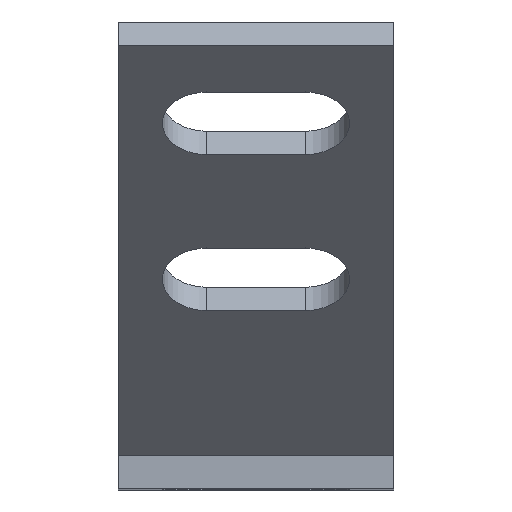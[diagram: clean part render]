
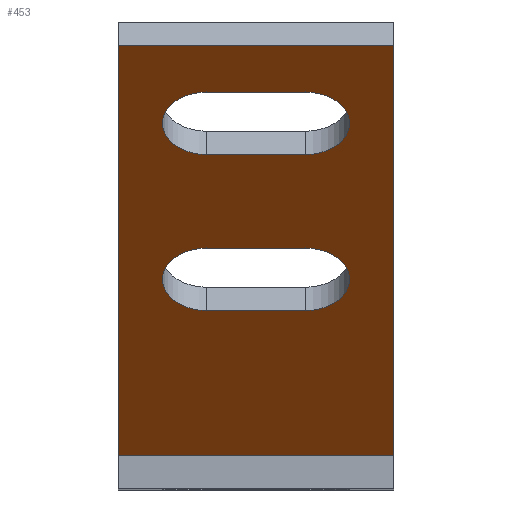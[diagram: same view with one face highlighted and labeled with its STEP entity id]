
A CAD part, top view. The second image highlights one B-rep face of the part: STEP entity #453.
In plain terms, the highlighted planar face has unit normal (0, -0.707, 0.707).
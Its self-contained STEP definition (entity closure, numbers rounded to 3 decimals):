
#6 = VERTEX_POINT ( 'NONE', #535 ) ;
#11 = CIRCLE ( 'NONE', #574, 4. ) ;
#14 = CARTESIAN_POINT ( 'NONE',  ( 4.5, 33.234, 37.477 ) ) ;
#15 = ORIENTED_EDGE ( 'NONE', *, *, #786, .F. ) ;
#27 = CARTESIAN_POINT ( 'NONE',  ( -4.5, 21.92, 26.163 ) ) ;
#54 = DIRECTION ( 'NONE',  ( 0., -0.707, -0.707 ) ) ;
#62 = DIRECTION ( 'NONE',  ( -1., 0., 0. ) ) ;
#86 = EDGE_CURVE ( 'NONE', #875, #332, #470, .T. ) ;
#93 = VERTEX_POINT ( 'NONE', #413 ) ;
#101 = VECTOR ( 'NONE', #614, 1000. ) ;
#103 = LINE ( 'NONE', #27, #746 ) ;
#117 = CARTESIAN_POINT ( 'NONE',  ( 12.5, 3., 7.243 ) ) ;
#139 = DIRECTION ( 'NONE',  ( -1., 0., 0. ) ) ;
#141 = DIRECTION ( 'NONE',  ( 0., -0.707, 0.707 ) ) ;
#145 = CIRCLE ( 'NONE', #405, 4. ) ;
#147 = CARTESIAN_POINT ( 'NONE',  ( 12.5, 40.305, 44.548 ) ) ;
#165 = CARTESIAN_POINT ( 'NONE',  ( -4.5, 36.062, 40.305 ) ) ;
#169 = ORIENTED_EDGE ( 'NONE', *, *, #423, .F. ) ;
#176 = AXIS2_PLACEMENT_3D ( 'NONE', #529, #265, #739 ) ;
#178 = CARTESIAN_POINT ( 'NONE',  ( -4.5, 30.406, 34.648 ) ) ;
#185 = LINE ( 'NONE', #178, #475 ) ;
#195 = ORIENTED_EDGE ( 'NONE', *, *, #86, .F. ) ;
#198 = DIRECTION ( 'NONE',  ( 0., 0.707, 0.707 ) ) ;
#200 = EDGE_CURVE ( 'NONE', #315, #718, #548, .T. ) ;
#221 = VECTOR ( 'NONE', #818, 1000. ) ;
#240 = PLANE ( 'NONE',  #176 ) ;
#249 = ORIENTED_EDGE ( 'NONE', *, *, #311, .F. ) ;
#252 = LINE ( 'NONE', #165, #592 ) ;
#265 = DIRECTION ( 'NONE',  ( 0., 0.707, -0.707 ) ) ;
#311 = EDGE_CURVE ( 'NONE', #761, #770, #103, .T. ) ;
#315 = VERTEX_POINT ( 'NONE', #722 ) ;
#316 = ORIENTED_EDGE ( 'NONE', *, *, #465, .F. ) ;
#317 = DIRECTION ( 'NONE',  ( -1., 0., 0. ) ) ;
#323 = FACE_BOUND ( 'NONE', #896, .T. ) ;
#330 = DIRECTION ( 'NONE',  ( 0., -0.707, 0.707 ) ) ;
#332 = VERTEX_POINT ( 'NONE', #573 ) ;
#339 = EDGE_LOOP ( 'NONE', ( #656, #195, #668, #695 ) ) ;
#343 = ORIENTED_EDGE ( 'NONE', *, *, #362, .F. ) ;
#357 = ORIENTED_EDGE ( 'NONE', *, *, #200, .F. ) ;
#359 = EDGE_CURVE ( 'NONE', #93, #761, #11, .T. ) ;
#362 = EDGE_CURVE ( 'NONE', #752, #315, #185, .T. ) ;
#376 = FACE_OUTER_BOUND ( 'NONE', #339, .T. ) ;
#381 = DIRECTION ( 'NONE',  ( -1., 0., 0. ) ) ;
#393 = VECTOR ( 'NONE', #139, 1000. ) ;
#405 = AXIS2_PLACEMENT_3D ( 'NONE', #878, #330, #198 ) ;
#406 = CARTESIAN_POINT ( 'NONE',  ( -4.5, 36.062, 40.305 ) ) ;
#413 = CARTESIAN_POINT ( 'NONE',  ( 4.5, 16.263, 20.506 ) ) ;
#423 = EDGE_CURVE ( 'NONE', #512, #752, #532, .T. ) ;
#424 = CARTESIAN_POINT ( 'NONE',  ( -4.5, 16.263, 20.506 ) ) ;
#428 = CARTESIAN_POINT ( 'NONE',  ( -4.5, 30.406, 34.648 ) ) ;
#438 = VERTEX_POINT ( 'NONE', #508 ) ;
#441 = CARTESIAN_POINT ( 'NONE',  ( 4.5, 19.092, 23.335 ) ) ;
#449 = ORIENTED_EDGE ( 'NONE', *, *, #359, .F. ) ;
#453 = ADVANCED_FACE ( 'NONE', ( #782, #323, #376 ), #240, .F. ) ;
#456 = ORIENTED_EDGE ( 'NONE', *, *, #528, .F. ) ;
#465 = EDGE_CURVE ( 'NONE', #770, #701, #145, .T. ) ;
#470 = LINE ( 'NONE', #740, #854 ) ;
#475 = VECTOR ( 'NONE', #801, 1000. ) ;
#508 = CARTESIAN_POINT ( 'NONE',  ( 12.5, 40.305, 44.548 ) ) ;
#512 = VERTEX_POINT ( 'NONE', #406 ) ;
#516 = EDGE_CURVE ( 'NONE', #6, #332, #673, .T. ) ;
#521 = CARTESIAN_POINT ( 'NONE',  ( -4.5, 33.234, 37.477 ) ) ;
#528 = EDGE_CURVE ( 'NONE', #701, #93, #884, .T. ) ;
#529 = CARTESIAN_POINT ( 'NONE',  ( 12.5, 3., 7.243 ) ) ;
#532 = CIRCLE ( 'NONE', #561, 4. ) ;
#535 = CARTESIAN_POINT ( 'NONE',  ( -12.5, 40.305, 44.548 ) ) ;
#544 = EDGE_CURVE ( 'NONE', #438, #875, #735, .T. ) ;
#548 = CIRCLE ( 'NONE', #636, 4. ) ;
#560 = LINE ( 'NONE', #147, #393 ) ;
#561 = AXIS2_PLACEMENT_3D ( 'NONE', #521, #797, #725 ) ;
#573 = CARTESIAN_POINT ( 'NONE',  ( -12.5, 3., 7.243 ) ) ;
#574 = AXIS2_PLACEMENT_3D ( 'NONE', #441, #596, #791 ) ;
#578 = CARTESIAN_POINT ( 'NONE',  ( 4.5, 21.92, 26.163 ) ) ;
#587 = CARTESIAN_POINT ( 'NONE',  ( 12.5, 3., 7.243 ) ) ;
#592 = VECTOR ( 'NONE', #317, 1000. ) ;
#596 = DIRECTION ( 'NONE',  ( 0., -0.707, 0.707 ) ) ;
#614 = DIRECTION ( 'NONE',  ( 1., 0., 0. ) ) ;
#628 = CARTESIAN_POINT ( 'NONE',  ( 4.5, 36.062, 40.305 ) ) ;
#636 = AXIS2_PLACEMENT_3D ( 'NONE', #14, #141, #700 ) ;
#656 = ORIENTED_EDGE ( 'NONE', *, *, #516, .T. ) ;
#668 = ORIENTED_EDGE ( 'NONE', *, *, #544, .F. ) ;
#673 = LINE ( 'NONE', #893, #747 ) ;
#688 = EDGE_CURVE ( 'NONE', #438, #6, #560, .T. ) ;
#695 = ORIENTED_EDGE ( 'NONE', *, *, #688, .T. ) ;
#700 = DIRECTION ( 'NONE',  ( 0., 0.707, 0.707 ) ) ;
#701 = VERTEX_POINT ( 'NONE', #424 ) ;
#707 = CARTESIAN_POINT ( 'NONE',  ( -4.5, 21.92, 26.163 ) ) ;
#718 = VERTEX_POINT ( 'NONE', #628 ) ;
#722 = CARTESIAN_POINT ( 'NONE',  ( 4.5, 30.406, 34.648 ) ) ;
#725 = DIRECTION ( 'NONE',  ( 0., 0.707, 0.707 ) ) ;
#735 = LINE ( 'NONE', #117, #221 ) ;
#739 = DIRECTION ( 'NONE',  ( 0., 0.707, 0.707 ) ) ;
#740 = CARTESIAN_POINT ( 'NONE',  ( 12.5, 3., 7.243 ) ) ;
#746 = VECTOR ( 'NONE', #381, 1000. ) ;
#747 = VECTOR ( 'NONE', #54, 1000. ) ;
#752 = VERTEX_POINT ( 'NONE', #428 ) ;
#761 = VERTEX_POINT ( 'NONE', #578 ) ;
#770 = VERTEX_POINT ( 'NONE', #707 ) ;
#782 = FACE_BOUND ( 'NONE', #864, .T. ) ;
#786 = EDGE_CURVE ( 'NONE', #718, #512, #252, .T. ) ;
#791 = DIRECTION ( 'NONE',  ( 0., 0.707, 0.707 ) ) ;
#797 = DIRECTION ( 'NONE',  ( 0., -0.707, 0.707 ) ) ;
#801 = DIRECTION ( 'NONE',  ( 1., 0., 0. ) ) ;
#818 = DIRECTION ( 'NONE',  ( 0., -0.707, -0.707 ) ) ;
#825 = CARTESIAN_POINT ( 'NONE',  ( -4.5, 16.263, 20.506 ) ) ;
#854 = VECTOR ( 'NONE', #62, 1000. ) ;
#864 = EDGE_LOOP ( 'NONE', ( #456, #316, #249, #449 ) ) ;
#875 = VERTEX_POINT ( 'NONE', #587 ) ;
#878 = CARTESIAN_POINT ( 'NONE',  ( -4.5, 19.092, 23.335 ) ) ;
#884 = LINE ( 'NONE', #825, #101 ) ;
#893 = CARTESIAN_POINT ( 'NONE',  ( -12.5, 3., 7.243 ) ) ;
#896 = EDGE_LOOP ( 'NONE', ( #343, #169, #15, #357 ) ) ;
